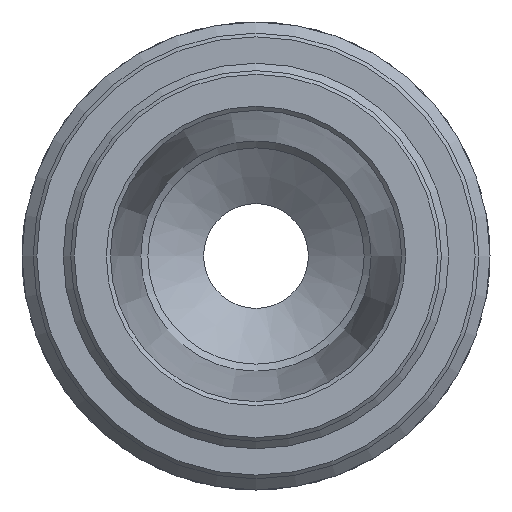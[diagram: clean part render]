
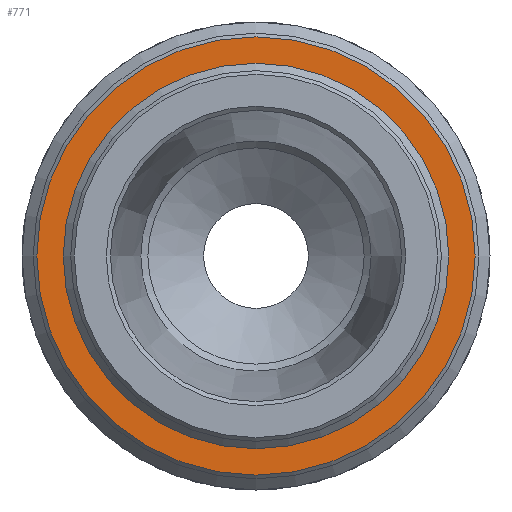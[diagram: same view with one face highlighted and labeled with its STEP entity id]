
A CAD part, front view. The second image highlights one B-rep face of the part: STEP entity #771.
In plain terms, the highlighted planar face has unit normal (0, -1, 0).
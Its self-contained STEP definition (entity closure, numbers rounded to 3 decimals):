
#57=FACE_BOUND('',#121,.T.);
#63=PLANE('',#838);
#76=FACE_OUTER_BOUND('',#120,.T.);
#120=EDGE_LOOP('',(#516));
#121=EDGE_LOOP('',(#517));
#249=CIRCLE('',#837,25.95);
#250=CIRCLE('',#839,29.5);
#307=VERTEX_POINT('',#1181);
#308=VERTEX_POINT('',#1185);
#392=EDGE_CURVE('',#307,#307,#249,.T.);
#393=EDGE_CURVE('',#308,#308,#250,.T.);
#516=ORIENTED_EDGE('',*,*,#393,.F.);
#517=ORIENTED_EDGE('',*,*,#392,.F.);
#771=ADVANCED_FACE('',(#76,#57),#63,.T.);
#837=AXIS2_PLACEMENT_3D('',#1183,#943,#944);
#838=AXIS2_PLACEMENT_3D('',#1184,#945,#946);
#839=AXIS2_PLACEMENT_3D('',#1186,#947,#948);
#943=DIRECTION('center_axis',(0.,-1.,0.));
#944=DIRECTION('ref_axis',(-1.,0.,0.));
#945=DIRECTION('center_axis',(0.,-1.,0.));
#946=DIRECTION('ref_axis',(0.,0.,-1.));
#947=DIRECTION('center_axis',(0.,1.,0.));
#948=DIRECTION('ref_axis',(-1.,0.,0.));
#1181=CARTESIAN_POINT('',(25.95,53.632,0.));
#1183=CARTESIAN_POINT('Origin',(0.,53.632,
0.));
#1184=CARTESIAN_POINT('Origin',(24.95,53.632,0.));
#1185=CARTESIAN_POINT('',(29.5,53.632,0.));
#1186=CARTESIAN_POINT('Origin',(0.,53.632,
0.));
